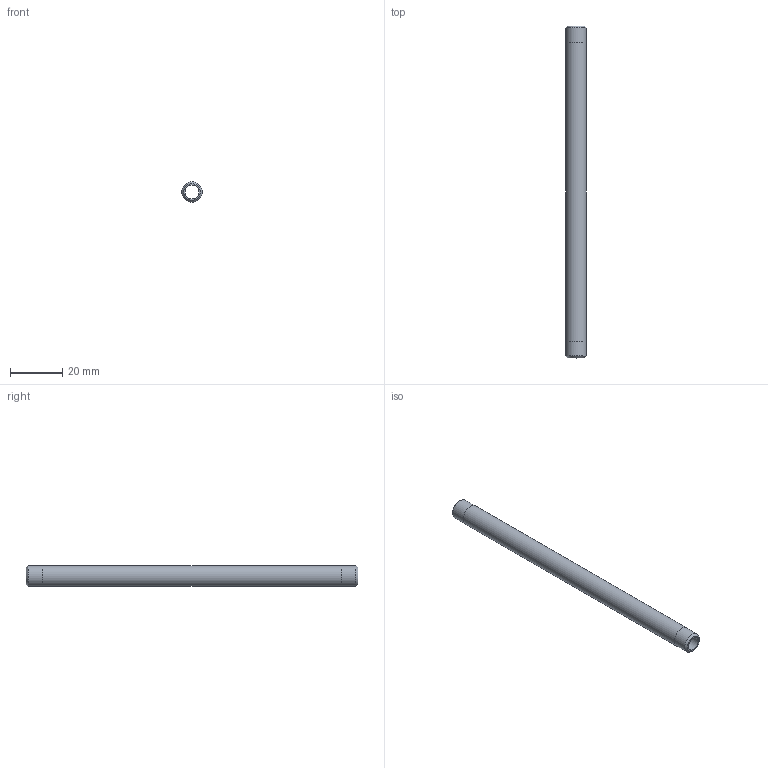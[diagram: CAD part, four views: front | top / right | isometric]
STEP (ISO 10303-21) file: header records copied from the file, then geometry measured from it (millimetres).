
FILE_DESCRIPTION(/* description */ (''),/* implementation_level */ '2;1');
FILE_NAME(/* name */ 'C:/Users/drich/Desktop/SSPN16-5 v1.step',/* time_stamp */ '2020-01-04T13:23:01-06:00',/* author */ (''),/* organization */ (''),/* preprocessor_version */ 'ST-DEVELOPER v18',/* originating_system */ 'Autodesk Translation Framework v8.12.0.6',/* authorisation */ '');
FILE_SCHEMA (('AUTOMOTIVE_DESIGN { 1 0 10303 214 3 1 1 }'));
Length unit declared in the file: inch
Products named in the file (1): SSPN16-5
Bounding box: 7.92 x 127 x 7.92 mm (x, y, z)
Volume: 3431.9 mm3; surface area: 5308.7 mm2
Topology: 1 solids, 1 shells, 10 faces, 24 edges, 18 vertices
Faces by surface type: cylinder 4, plane 4, cone 2
Full cylindrical faces by diameter (mm): 5.309 x1, 7.874 x2, 7.925 x1
Entity records: 353 total; most frequent: DIRECTION 64, CARTESIAN_POINT 53, ORIENTED_EDGE 48, AXIS2_PLACEMENT_3D 29, EDGE_CURVE 24, CIRCLE 18, VERTEX_POINT 18, EDGE_LOOP 14
